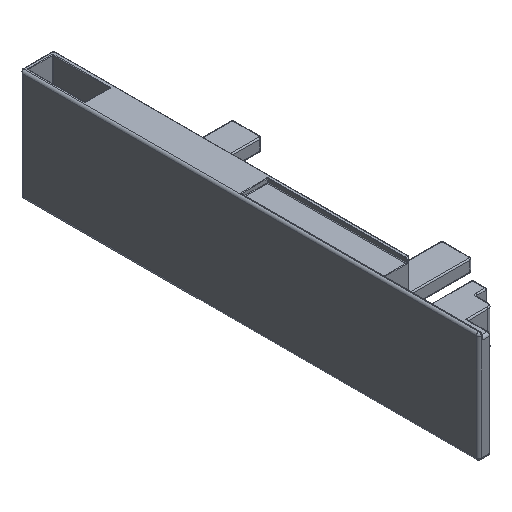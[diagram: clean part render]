
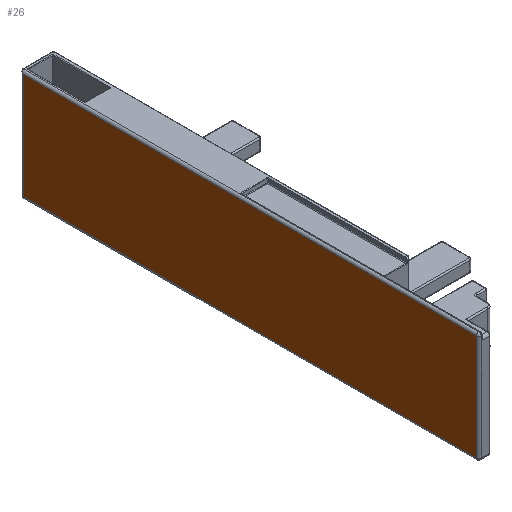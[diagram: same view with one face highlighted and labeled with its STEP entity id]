
A CAD part, isometric view. The second image highlights one B-rep face of the part: STEP entity #26.
In plain terms, the highlighted planar face has unit normal (-1, 0, 0).
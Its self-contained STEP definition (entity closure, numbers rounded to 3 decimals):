
#26 = ADVANCED_FACE ( 'NONE', ( #2405 ), #1079, .T. ) ;
#302 = VECTOR ( 'NONE', #3626, 1000. ) ;
#356 = CARTESIAN_POINT ( 'NONE',  ( -2.8, -60.3, -37.3 ) ) ;
#772 = ORIENTED_EDGE ( 'NONE', *, *, #1664, .F. ) ;
#1079 = PLANE ( 'NONE',  #2490 ) ;
#1151 = LINE ( 'NONE', #356, #4297 ) ;
#1248 = ORIENTED_EDGE ( 'NONE', *, *, #1308, .F. ) ;
#1308 = EDGE_CURVE ( 'NONE', #3712, #3601, #3075, .T. ) ;
#1538 = LINE ( 'NONE', #3367, #4681 ) ;
#1664 = EDGE_CURVE ( 'NONE', #4923, #4163, #2618, .T. ) ;
#1742 = EDGE_CURVE ( 'NONE', #4163, #3712, #1151, .T. ) ;
#1805 = ORIENTED_EDGE ( 'NONE', *, *, #2112, .F. ) ;
#1904 = DIRECTION ( 'NONE',  ( 0., 0., -1. ) ) ;
#1949 = CARTESIAN_POINT ( 'NONE',  ( -2.8, -60.3, -79.7 ) ) ;
#2112 = EDGE_CURVE ( 'NONE', #3601, #4923, #1538, .T. ) ;
#2405 = FACE_OUTER_BOUND ( 'NONE', #3609, .T. ) ;
#2490 = AXIS2_PLACEMENT_3D ( 'NONE', #3128, #4381, #1904 ) ;
#2618 = LINE ( 'NONE', #2794, #302 ) ;
#2794 = CARTESIAN_POINT ( 'NONE',  ( -2.8, 121.3, -36.3 ) ) ;
#2935 = DIRECTION ( 'NONE',  ( 0., 1., 0. ) ) ;
#3075 = LINE ( 'NONE', #1949, #5134 ) ;
#3128 = CARTESIAN_POINT ( 'NONE',  ( -2.8, 0., -72.6 ) ) ;
#3236 = DIRECTION ( 'NONE',  ( 0., -1., 0. ) ) ;
#3367 = CARTESIAN_POINT ( 'NONE',  ( -2.8, 35.3, -79.7 ) ) ;
#3601 = VERTEX_POINT ( 'NONE', #4212 ) ;
#3609 = EDGE_LOOP ( 'NONE', ( #772, #1805, #1248, #3894 ) ) ;
#3626 = DIRECTION ( 'NONE',  ( 0., 0., 1. ) ) ;
#3712 = VERTEX_POINT ( 'NONE', #4693 ) ;
#3892 = CARTESIAN_POINT ( 'NONE',  ( -2.8, 121.3, -37.3 ) ) ;
#3894 = ORIENTED_EDGE ( 'NONE', *, *, #1742, .F. ) ;
#4013 = DIRECTION ( 'NONE',  ( 0., 0., -1. ) ) ;
#4163 = VERTEX_POINT ( 'NONE', #3892 ) ;
#4212 = CARTESIAN_POINT ( 'NONE',  ( -2.8, -60.3, -79.7 ) ) ;
#4297 = VECTOR ( 'NONE', #3236, 1000. ) ;
#4381 = DIRECTION ( 'NONE',  ( -1., 0., 0. ) ) ;
#4681 = VECTOR ( 'NONE', #2935, 1000. ) ;
#4693 = CARTESIAN_POINT ( 'NONE',  ( -2.8, -60.3, -37.3 ) ) ;
#4771 = CARTESIAN_POINT ( 'NONE',  ( -2.8, 121.3, -79.7 ) ) ;
#4923 = VERTEX_POINT ( 'NONE', #4771 ) ;
#5134 = VECTOR ( 'NONE', #4013, 1000. ) ;
